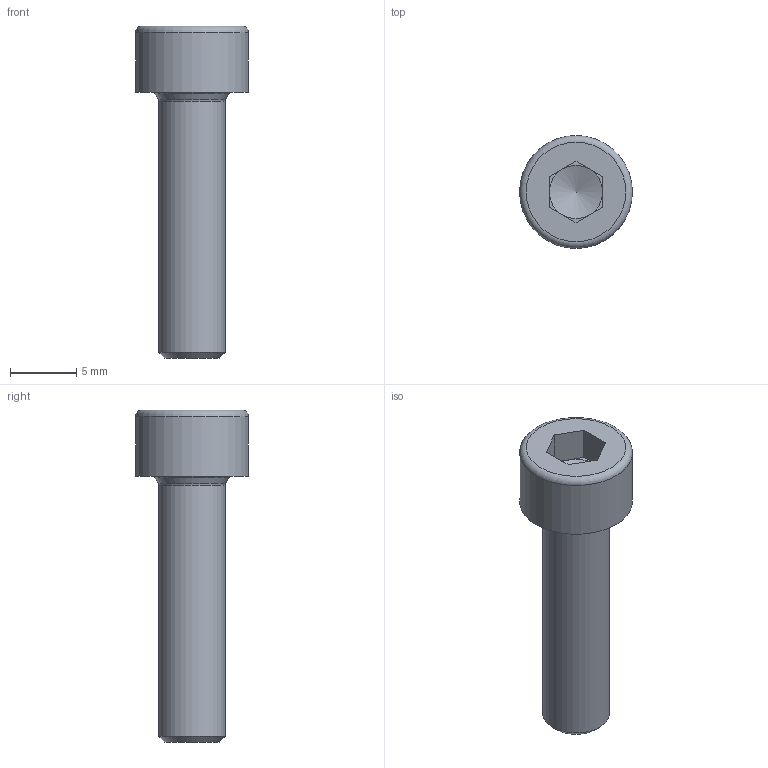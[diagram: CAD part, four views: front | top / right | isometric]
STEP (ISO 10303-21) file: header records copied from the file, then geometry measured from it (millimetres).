
FILE_DESCRIPTION(/* description */ ('STEP AP242 Edition 2','CAx-IF Rec.Pracs.---Representation and Presentation of Product Manufacturing Information (PMI)---4.0---2014-10-13','CAx-IF Rec.Pracs.---3D Tessellated Geometry---0.4---2014-09-14','2;1','CAx-IF Rec.Pracs.---User Defined Attributes---1.5---2016-08-15'),/* implementation_level */ '2;1');
FILE_NAME(/* name */ 'Assy_ForMFG - Hex socket head cap screw M5x0.80 x 20',/* time_stamp */ '2026-05-15T19:56:23Z',/* author */ (''),/* organization */ (''),/* preprocessor_version */ 'ST-DEVELOPER v20',/* originating_system */ 'ONSHAPE BY PTC INC, 1.215',/* authorisation */ ' ');
FILE_SCHEMA (('AP242_MANAGED_MODEL_BASED_3D_ENGINEERING_MIM_LF { 1 0 10303 442 3 1 4 }'));
Length unit declared in the file: metre
Products named in the file (1): Hex socket head cap screw M5x0.80 x 20
Bounding box: 8.5 x 8.5 x 25 mm (x, y, z)
Volume: 637.7 mm3; surface area: 582.5 mm2
Topology: 1 solids, 1 shells, 23 faces, 49 edges, 29 vertices
Faces by surface type: plane 15, torus 3, cone 3, cylinder 2
Full cylindrical faces by diameter (mm): 5 x1, 8.5 x1
Entity records: 578 total; most frequent: DIRECTION 102, CARTESIAN_POINT 91, ORIENTED_EDGE 78, EDGE_CURVE 39, AXIS2_PLACEMENT_3D 39, FACE_BOUND 33, EDGE_LOOP 32, VERTEX_POINT 28
